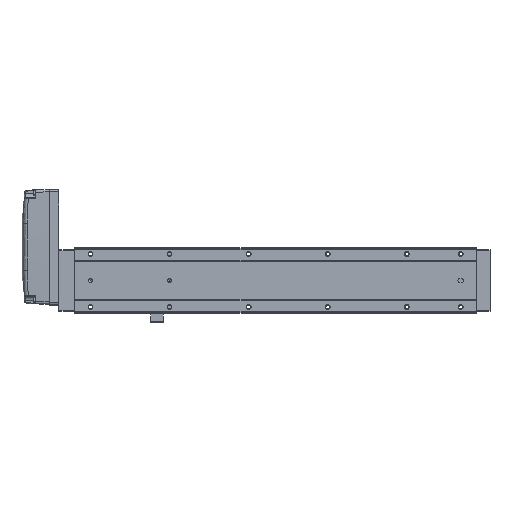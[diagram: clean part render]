
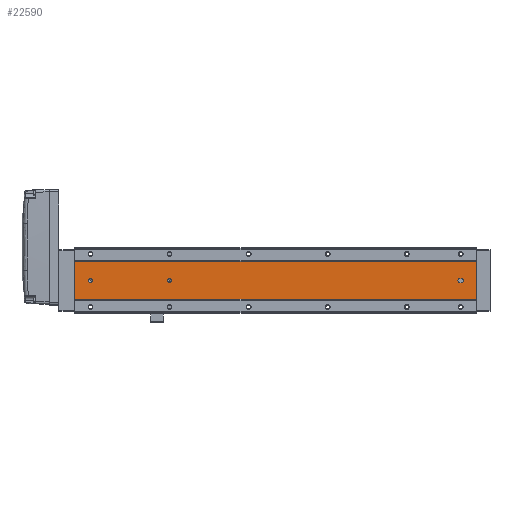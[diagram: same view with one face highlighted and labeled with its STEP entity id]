
A CAD part, front view. The second image highlights one B-rep face of the part: STEP entity #22590.
In plain terms, the highlighted planar face has unit normal (0, -1, 0).
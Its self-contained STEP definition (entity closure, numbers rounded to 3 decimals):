
#78 = AXIS2_PLACEMENT_3D ( 'NONE', #6646, #21710, #9322 ) ;
#874 = VERTEX_POINT ( 'NONE', #4230 ) ;
#1225 = VERTEX_POINT ( 'NONE', #2483 ) ;
#1717 = DIRECTION ( 'NONE',  ( 0., 0., -1. ) ) ;
#1818 = CARTESIAN_POINT ( 'NONE',  ( 120., 1., 2.5 ) ) ;
#1908 = CARTESIAN_POINT ( 'NONE',  ( 487., 1., 0. ) ) ;
#2144 = CARTESIAN_POINT ( 'NONE',  ( 508., 1., -23.876 ) ) ;
#2451 = EDGE_CURVE ( 'NONE', #5263, #21235, #30633, .T. ) ;
#2483 = CARTESIAN_POINT ( 'NONE',  ( 489., 1., 2.5 ) ) ;
#3738 = DIRECTION ( 'NONE',  ( 0., 0., -1. ) ) ;
#3854 = EDGE_CURVE ( 'NONE', #874, #27552, #8587, .T. ) ;
#4105 = EDGE_CURVE ( 'NONE', #21235, #1225, #19802, .T. ) ;
#4230 = CARTESIAN_POINT ( 'NONE',  ( 20., 1., 2.5 ) ) ;
#4804 = ORIENTED_EDGE ( 'NONE', *, *, #4893, .F. ) ;
#4893 = EDGE_CURVE ( 'NONE', #19795, #5263, #7850, .T. ) ;
#5166 = CARTESIAN_POINT ( 'NONE',  ( 120., 1., -2.5 ) ) ;
#5212 = CARTESIAN_POINT ( 'NONE',  ( 508., 1., -2.5 ) ) ;
#5263 = VERTEX_POINT ( 'NONE', #18094 ) ;
#5454 = CARTESIAN_POINT ( 'NONE',  ( 508., 1., -23.876 ) ) ;
#5487 = ORIENTED_EDGE ( 'NONE', *, *, #20185, .F. ) ;
#5806 = AXIS2_PLACEMENT_3D ( 'NONE', #5454, #25681, #13623 ) ;
#6289 = EDGE_CURVE ( 'NONE', #27552, #874, #11641, .T. ) ;
#6342 = LINE ( 'NONE', #9016, #25825 ) ;
#6646 = CARTESIAN_POINT ( 'NONE',  ( 489., 1., 0. ) ) ;
#6692 = ORIENTED_EDGE ( 'NONE', *, *, #27352, .F. ) ;
#6693 = EDGE_CURVE ( 'NONE', #18867, #15773, #11582, .T. ) ;
#7007 = CARTESIAN_POINT ( 'NONE',  ( 20., 1., 0. ) ) ;
#7850 = CIRCLE ( 'NONE', #18533, 2.5 ) ;
#7956 = FACE_BOUND ( 'NONE', #14106, .T. ) ;
#8571 = AXIS2_PLACEMENT_3D ( 'NONE', #16891, #32602, #1717 ) ;
#8587 = CIRCLE ( 'NONE', #15004, 2.5 ) ;
#8936 = VERTEX_POINT ( 'NONE', #13476 ) ;
#9016 = CARTESIAN_POINT ( 'NONE',  ( 0., 1., -23.876 ) ) ;
#9322 = DIRECTION ( 'NONE',  ( 0., 0., -1. ) ) ;
#9997 = ORIENTED_EDGE ( 'NONE', *, *, #3854, .F. ) ;
#10172 = EDGE_LOOP ( 'NONE', ( #22270, #4804, #32361, #32989 ) ) ;
#10376 = CARTESIAN_POINT ( 'NONE',  ( 20., 1., -2.5 ) ) ;
#10417 = ORIENTED_EDGE ( 'NONE', *, *, #26047, .F. ) ;
#11153 = CIRCLE ( 'NONE', #8571, 2.5 ) ;
#11404 = DIRECTION ( 'NONE',  ( 0., 0., -1. ) ) ;
#11582 = CIRCLE ( 'NONE', #25493, 2.5 ) ;
#11641 = CIRCLE ( 'NONE', #28766, 2.5 ) ;
#11890 = CARTESIAN_POINT ( 'NONE',  ( 20., 1., 0. ) ) ;
#12218 = DIRECTION ( 'NONE',  ( 0., 0., -1. ) ) ;
#12639 = CARTESIAN_POINT ( 'NONE',  ( 489., 1., -2.5 ) ) ;
#12776 = ORIENTED_EDGE ( 'NONE', *, *, #6289, .F. ) ;
#13476 = CARTESIAN_POINT ( 'NONE',  ( 0., 1., 23.876 ) ) ;
#13623 = DIRECTION ( 'NONE',  ( 0., 0., -1. ) ) ;
#13865 = EDGE_LOOP ( 'NONE', ( #10417, #5487, #28054, #18970 ) ) ;
#14106 = EDGE_LOOP ( 'NONE', ( #12776, #9997 ) ) ;
#14585 = DIRECTION ( 'NONE',  ( 0., -1., 0. ) ) ;
#14713 = CARTESIAN_POINT ( 'NONE',  ( 487., 1., 2.5 ) ) ;
#15004 = AXIS2_PLACEMENT_3D ( 'NONE', #11890, #14585, #12218 ) ;
#15314 = DIRECTION ( 'NONE',  ( -1., 0., 0. ) ) ;
#15322 = LINE ( 'NONE', #25003, #19346 ) ;
#15773 = VERTEX_POINT ( 'NONE', #5166 ) ;
#16106 = VECTOR ( 'NONE', #15314, 1000. ) ;
#16160 = FACE_BOUND ( 'NONE', #10172, .T. ) ;
#16553 = DIRECTION ( 'NONE',  ( 0., 0., 1. ) ) ;
#16666 = ORIENTED_EDGE ( 'NONE', *, *, #6693, .F. ) ;
#16891 = CARTESIAN_POINT ( 'NONE',  ( 120., 1., 0. ) ) ;
#17482 = CARTESIAN_POINT ( 'NONE',  ( 508., 1., 2.5 ) ) ;
#17726 = DIRECTION ( 'NONE',  ( 0., 0., -1. ) ) ;
#17954 = CARTESIAN_POINT ( 'NONE',  ( 0., 1., -23.876 ) ) ;
#17988 = PLANE ( 'NONE',  #5806 ) ;
#18094 = CARTESIAN_POINT ( 'NONE',  ( 487., 1., -2.5 ) ) ;
#18165 = FACE_BOUND ( 'NONE', #19144, .T. ) ;
#18533 = AXIS2_PLACEMENT_3D ( 'NONE', #1908, #27292, #11404 ) ;
#18867 = VERTEX_POINT ( 'NONE', #1818 ) ;
#18961 = CARTESIAN_POINT ( 'NONE',  ( 120., 1., 0. ) ) ;
#18970 = ORIENTED_EDGE ( 'NONE', *, *, #25151, .T. ) ;
#19144 = EDGE_LOOP ( 'NONE', ( #6692, #16666 ) ) ;
#19208 = CARTESIAN_POINT ( 'NONE',  ( 508., 1., -23.876 ) ) ;
#19346 = VECTOR ( 'NONE', #28028, 1000. ) ;
#19788 = VERTEX_POINT ( 'NONE', #24744 ) ;
#19790 = DIRECTION ( 'NONE',  ( -1., 0., 0. ) ) ;
#19795 = VERTEX_POINT ( 'NONE', #14713 ) ;
#19802 = CIRCLE ( 'NONE', #78, 2.5 ) ;
#20185 = EDGE_CURVE ( 'NONE', #27105, #28606, #31898, .T. ) ;
#20437 = VECTOR ( 'NONE', #19790, 1000. ) ;
#21165 = FACE_OUTER_BOUND ( 'NONE', #13865, .T. ) ;
#21235 = VERTEX_POINT ( 'NONE', #12639 ) ;
#21710 = DIRECTION ( 'NONE',  ( 0., -1., 0. ) ) ;
#22270 = ORIENTED_EDGE ( 'NONE', *, *, #2451, .F. ) ;
#22508 = LINE ( 'NONE', #17482, #16106 ) ;
#22590 = ADVANCED_FACE ( 'NONE', ( #16160, #7956, #18165, #21165 ), #17988, .T. ) ;
#23315 = VECTOR ( 'NONE', #29401, 1000. ) ;
#24273 = EDGE_CURVE ( 'NONE', #27105, #19788, #15322, .T. ) ;
#24744 = CARTESIAN_POINT ( 'NONE',  ( 508., 1., 23.876 ) ) ;
#25003 = CARTESIAN_POINT ( 'NONE',  ( 508., 1., -23.876 ) ) ;
#25068 = DIRECTION ( 'NONE',  ( 0., -1., 0. ) ) ;
#25151 = EDGE_CURVE ( 'NONE', #19788, #8936, #26990, .T. ) ;
#25267 = DIRECTION ( 'NONE',  ( 1., 0., 0. ) ) ;
#25493 = AXIS2_PLACEMENT_3D ( 'NONE', #18961, #29152, #3738 ) ;
#25681 = DIRECTION ( 'NONE',  ( 0., -1., 0. ) ) ;
#25825 = VECTOR ( 'NONE', #16553, 1000. ) ;
#26047 = EDGE_CURVE ( 'NONE', #28606, #8936, #6342, .T. ) ;
#26990 = LINE ( 'NONE', #27461, #20437 ) ;
#27105 = VERTEX_POINT ( 'NONE', #2144 ) ;
#27207 = VECTOR ( 'NONE', #25267, 1000. ) ;
#27292 = DIRECTION ( 'NONE',  ( 0., -1., 0. ) ) ;
#27352 = EDGE_CURVE ( 'NONE', #15773, #18867, #11153, .T. ) ;
#27461 = CARTESIAN_POINT ( 'NONE',  ( 508., 1., 23.876 ) ) ;
#27552 = VERTEX_POINT ( 'NONE', #10376 ) ;
#28028 = DIRECTION ( 'NONE',  ( 0., 0., 1. ) ) ;
#28054 = ORIENTED_EDGE ( 'NONE', *, *, #24273, .T. ) ;
#28606 = VERTEX_POINT ( 'NONE', #17954 ) ;
#28766 = AXIS2_PLACEMENT_3D ( 'NONE', #7007, #25068, #17726 ) ;
#29152 = DIRECTION ( 'NONE',  ( 0., -1., 0. ) ) ;
#29401 = DIRECTION ( 'NONE',  ( -1., 0., 0. ) ) ;
#29945 = EDGE_CURVE ( 'NONE', #1225, #19795, #22508, .T. ) ;
#30633 = LINE ( 'NONE', #5212, #27207 ) ;
#31898 = LINE ( 'NONE', #19208, #23315 ) ;
#32361 = ORIENTED_EDGE ( 'NONE', *, *, #29945, .F. ) ;
#32602 = DIRECTION ( 'NONE',  ( 0., -1., 0. ) ) ;
#32989 = ORIENTED_EDGE ( 'NONE', *, *, #4105, .F. ) ;
